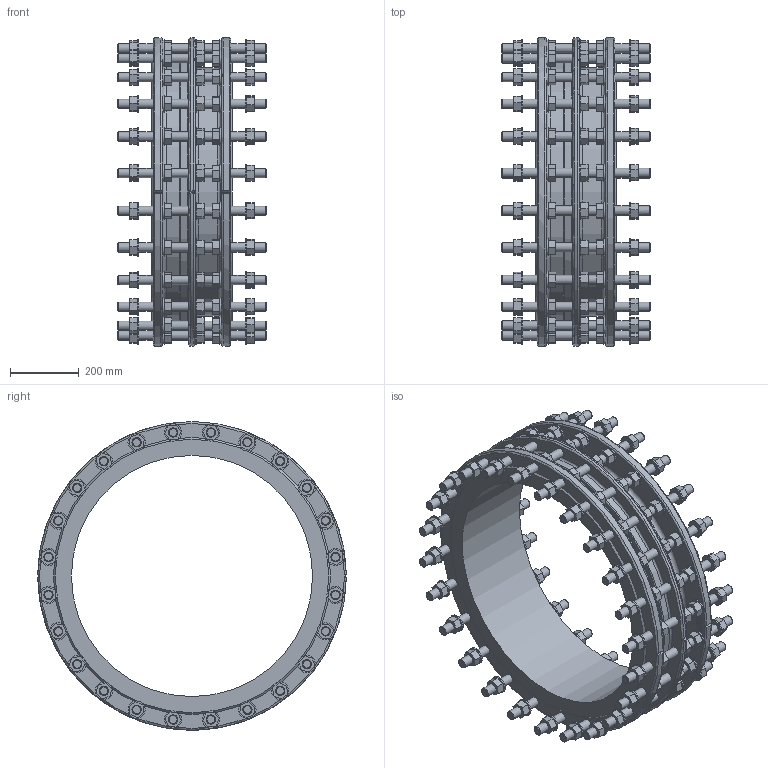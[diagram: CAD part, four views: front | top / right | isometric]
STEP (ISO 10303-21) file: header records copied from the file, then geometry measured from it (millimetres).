
FILE_DESCRIPTION (( 'STEP AP203' ), '1' );
FILE_NAME ('O_265_911_DN700_0XXXXX01_L=235_REV01.step', '2024-12-12T08:14:43', ( '' ), ( '' ), 'SwSTEP 2.0', 'SolidWorks 2022', '' );
FILE_SCHEMA (( 'CONFIG_CONTROL_DESIGN' ));
Length unit declared in the file: millimetre
Products named in the file (1): O_265_911_DN700_0XXXXX01_L=235_REV01
Bounding box: 430 x 894.96 x 895 mm (x, y, z)
Volume: 35141609.1 mm3; surface area: 3291083.2 mm2
Topology: 1 solids, 1 shells, 1525 faces, 3619 edges, 2371 vertices
Faces by surface type: plane 1188, cylinder 276, cone 51, torus 10
Full cylindrical faces by diameter (mm): 27 x144, 50 x120, 700 x1, 720 x2, 760 x1
Entity records: 41248 total; most frequent: CARTESIAN_POINT 7265, DIRECTION 6993, ORIENTED_EDGE 6274, EDGE_CURVE 3137, AXIS2_PLACEMENT_3D 2354, LINE 2285, VECTOR 2285, EDGE_LOOP 2227
